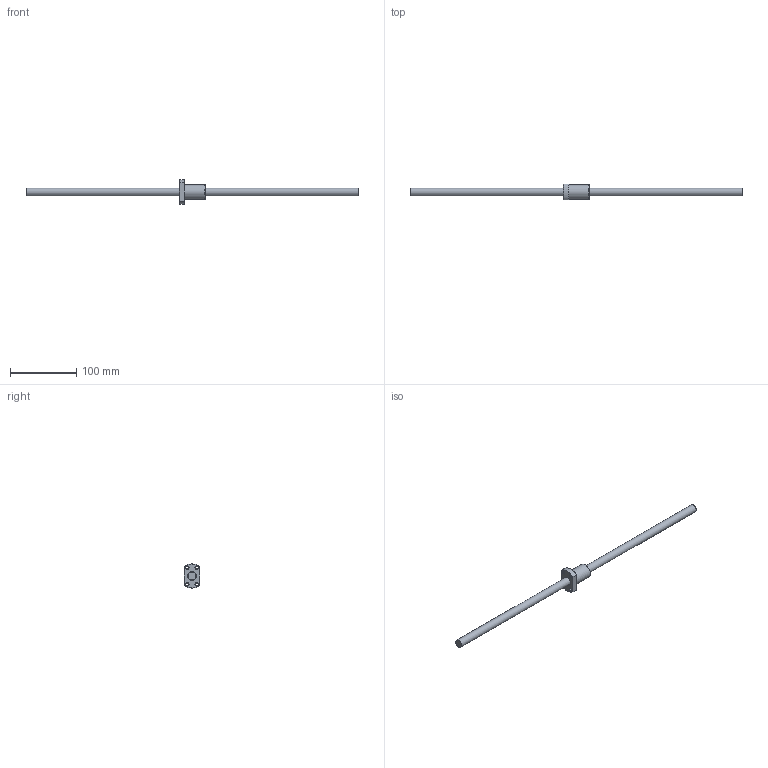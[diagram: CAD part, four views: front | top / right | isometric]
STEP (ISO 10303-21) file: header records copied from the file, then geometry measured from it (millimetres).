
FILE_DESCRIPTION (( 'STEP AP203' ), '1' );
FILE_NAME ('SFK01205.step', '2024-05-30T08:11:03', ( '' ), ( '' ), 'SwSTEP 2.0', 'SolidWorks 2022', '' );
FILE_SCHEMA (( 'CONFIG_CONTROL_DESIGN' ));
Length unit declared in the file: millimetre
Products named in the file (1): SFK01205
Bounding box: 500 x 24 x 36.89 mm (x, y, z)
Volume: 68894.7 mm3; surface area: 25308.4 mm2
Topology: 2 solids, 2 shells, 33 faces, 78 edges, 50 vertices
Faces by surface type: plane 11, cylinder 9, cone 8, torus 5
Full cylindrical faces by diameter (mm): 4.5 x4, 12 x1, 13.35 x1, 22 x1
Entity records: 935 total; most frequent: CARTESIAN_POINT 204, DIRECTION 142, ORIENTED_EDGE 102, AXIS2_PLACEMENT_3D 65, EDGE_LOOP 60, EDGE_CURVE 51, FACE_OUTER_BOUND 41, VERTEX_POINT 39
